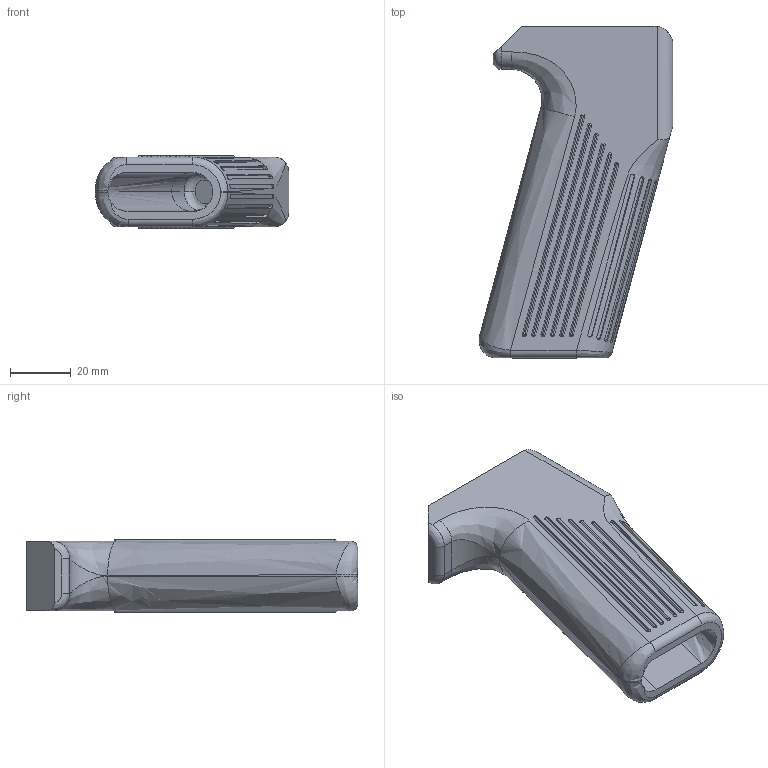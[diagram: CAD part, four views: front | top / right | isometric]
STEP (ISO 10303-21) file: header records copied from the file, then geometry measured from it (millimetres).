
FILE_DESCRIPTION (( 'STEP AP203' ), '1' );
FILE_NAME ('Main Grip.STEP', '2020-08-04T20:57:41', ( '' ), ( '' ), 'SwSTEP 2.0', 'SolidWorks 2017', '' );
FILE_SCHEMA (( 'CONFIG_CONTROL_DESIGN' ));
Length unit declared in the file: millimetre
Products named in the file (1): Main Grip
Bounding box: 63.83 x 109.29 x 23.81 mm (x, y, z)
Volume: 65379.1 mm3; surface area: 25218.4 mm2
Topology: 1 solids, 1 shells, 229 faces, 594 edges, 388 vertices
Faces by surface type: cylinder 91, plane 62, torus 48, bspline 28
Entity records: 9427 total; most frequent: CARTESIAN_POINT 3903, ORIENTED_EDGE 1188, DIRECTION 1102, EDGE_CURVE 594, AXIS2_PLACEMENT_3D 449, VERTEX_POINT 388, EDGE_LOOP 252, CIRCLE 247
